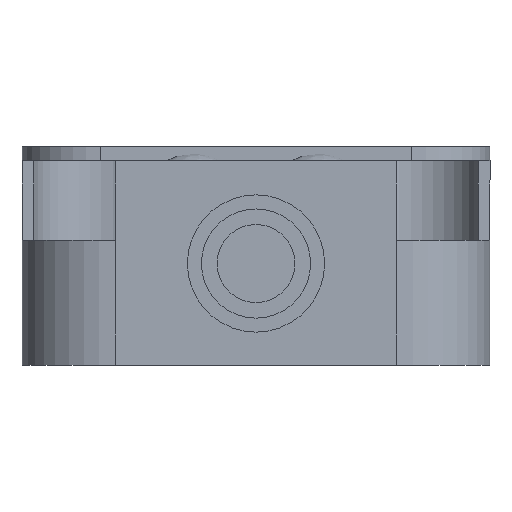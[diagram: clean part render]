
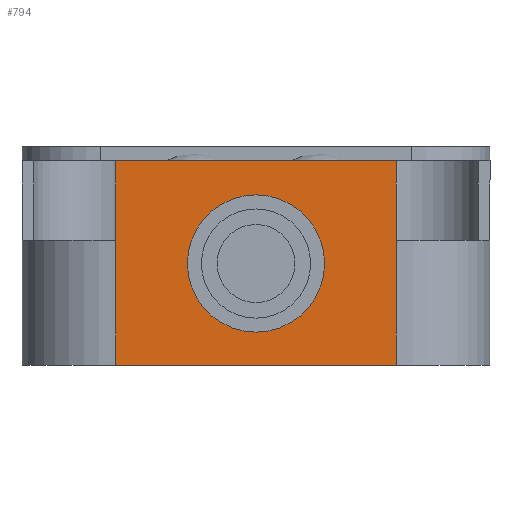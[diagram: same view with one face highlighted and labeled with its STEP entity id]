
A CAD part, left-side view. The second image highlights one B-rep face of the part: STEP entity #794.
In plain terms, the highlighted planar face has unit normal (-1, 0, 0).
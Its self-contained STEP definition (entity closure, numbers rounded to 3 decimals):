
#195=CARTESIAN_POINT('',(-27.184,8.029,10.919));
#196=VERTEX_POINT('',#195);
#197=CARTESIAN_POINT('',(-27.184,8.029,6.519));
#198=DIRECTION('',(1.0,0.0,0.0));
#199=DIRECTION('',(0.0,0.0,-1.0));
#200=AXIS2_PLACEMENT_3D('',#197,#198,#199);
#201=CIRCLE('',#200,4.4);
#202=EDGE_CURVE('',#196,#196,#201,.T.);
#320=CARTESIAN_POINT('',(-27.184,17.029,8.));
#321=VERTEX_POINT('',#320);
#322=CARTESIAN_POINT('',(-27.184,17.029,13.1));
#323=VERTEX_POINT('',#322);
#324=CARTESIAN_POINT('',(-27.184,17.029,8.));
#325=DIRECTION('',(0.0,0.0,1.0));
#326=VECTOR('',#325,5.1);
#327=LINE('',#324,#326);
#328=EDGE_CURVE('',#321,#323,#327,.T.);
#407=CARTESIAN_POINT('',(-27.184,-0.971,8.));
#408=VERTEX_POINT('',#407);
#450=CARTESIAN_POINT('',(-27.184,-0.971,13.1));
#451=VERTEX_POINT('',#450);
#452=CARTESIAN_POINT('',(-27.184,-0.971,8.));
#453=DIRECTION('',(0.0,0.0,1.0));
#454=VECTOR('',#453,5.1);
#455=LINE('',#452,#454);
#456=EDGE_CURVE('',#408,#451,#455,.T.);
#531=CARTESIAN_POINT('',(-27.184,-0.971,0.0));
#532=VERTEX_POINT('',#531);
#533=CARTESIAN_POINT('',(-27.184,-0.971,0.0));
#534=DIRECTION('',(0.0,0.0,1.0));
#535=VECTOR('',#534,8.);
#536=LINE('',#533,#535);
#537=EDGE_CURVE('',#532,#408,#536,.T.);
#565=CARTESIAN_POINT('',(-27.184,-0.971,13.1));
#566=DIRECTION('',(0.0,1.0,0.0));
#567=VECTOR('',#566,18.);
#568=LINE('',#565,#567);
#569=EDGE_CURVE('',#451,#323,#568,.T.);
#766=CARTESIAN_POINT('',(-27.184,-0.971,0.0));
#767=DIRECTION('',(-1.0,0.0,0.0));
#768=DIRECTION('',(0.0,0.0,1.0));
#769=AXIS2_PLACEMENT_3D('',#766,#767,#768);
#770=PLANE('',#769);
#771=ORIENTED_EDGE('',*,*,#569,.T.);
#772=ORIENTED_EDGE('',*,*,#328,.F.);
#773=CARTESIAN_POINT('',(-27.184,17.029,0.0));
#774=VERTEX_POINT('',#773);
#775=CARTESIAN_POINT('',(-27.184,17.029,0.0));
#776=DIRECTION('',(0.0,0.0,1.0));
#777=VECTOR('',#776,8.);
#778=LINE('',#775,#777);
#779=EDGE_CURVE('',#774,#321,#778,.T.);
#780=ORIENTED_EDGE('',*,*,#779,.F.);
#781=CARTESIAN_POINT('',(-27.184,-0.971,0.0));
#782=DIRECTION('',(0.0,1.0,0.0));
#783=VECTOR('',#782,18.);
#784=LINE('',#781,#783);
#785=EDGE_CURVE('',#532,#774,#784,.T.);
#786=ORIENTED_EDGE('',*,*,#785,.F.);
#787=ORIENTED_EDGE('',*,*,#537,.T.);
#788=ORIENTED_EDGE('',*,*,#456,.T.);
#789=EDGE_LOOP('',(#771,#772,#780,#786,#787,#788));
#790=FACE_OUTER_BOUND('',#789,.T.);
#791=ORIENTED_EDGE('',*,*,#202,.T.);
#792=EDGE_LOOP('',(#791));
#793=FACE_BOUND('',#792,.T.);
#794=ADVANCED_FACE('',(#790,#793),#770,.T.);
